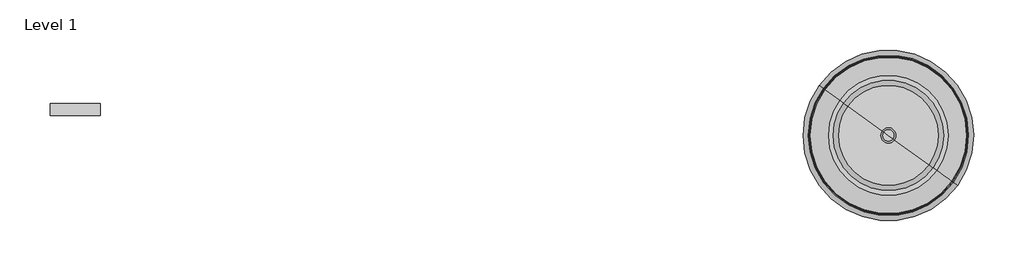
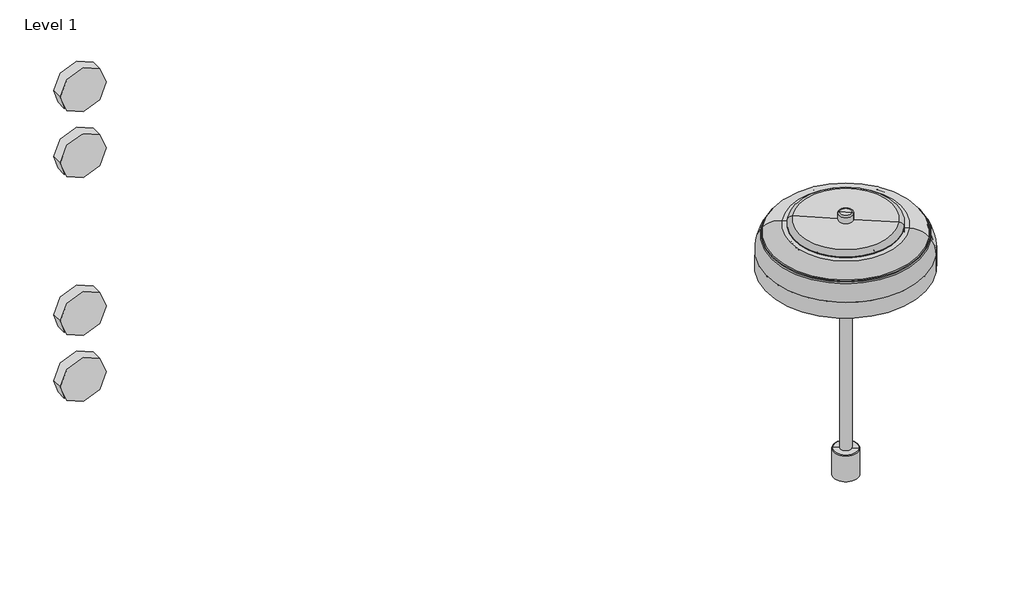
# One storey: 4 proxies, 1 light fixture.
"""IFC4 building model written with IfcOpenShell, lengths in millimetres."""

from ifc_helpers import new_model, si_unit, origin, place, context, project, spatial, transform, mapped, element, save
from components import materialmodel_materialmodel_d9ff14ed, light_fixture_892723d8

model = new_model("IFC4")

# Units and contexts
model_context = context("Model", 3, world=origin())
ifc_project = project(units=[si_unit("LENGTHUNIT", "METRE", prefix="MILLI")], contexts=[model_context])

# Site, building, storey
site = spatial("IfcSite", under=ifc_project)
building = spatial("IfcBuilding", under=site)
storey = spatial("IfcBuildingStorey", under=building, Name="Level 1", Elevation=0.0)

# Proxies
placement = place(None, origin())
materialmodel_materialmodel_shape = materialmodel_materialmodel_d9ff14ed(model_context)
element("IfcBuildingElementProxy", 1, Name="MaterialModel : MaterialModel", ObjectType="MaterialModel : MaterialModel", at=placement, inside=storey, context=model_context, shape_type="MappedRepresentation", body=[
    mapped(materialmodel_materialmodel_shape, transform((-14181.8938273, 5257.5863071, 552.2099026), x_axis=(1.0, 0.0, 0.0), y_axis=(0.0, 1.0, 0.0), z_axis=(0.0, 0.0, 1.0))),
])
element("IfcBuildingElementProxy", 2, Name="MaterialModel : MaterialModel", ObjectType="MaterialModel : MaterialModel", at=placement, inside=storey, context=model_context, shape_type="MappedRepresentation", body=[
    mapped(materialmodel_materialmodel_shape, transform((-14181.8938273, 5257.5863071, 477.2099026), x_axis=(1.0, 0.0, 0.0), y_axis=(0.0, 1.0, 0.0), z_axis=(0.0, 0.0, 1.0))),
])
element("IfcBuildingElementProxy", 3, Name="MaterialModel : MaterialModel", ObjectType="MaterialModel : MaterialModel", at=placement, inside=storey, context=model_context, shape_type="MappedRepresentation", body=[
    mapped(materialmodel_materialmodel_shape, transform((-14181.8938273, 5257.5863071, 807.2099026), x_axis=(1.0, 0.0, 0.0), y_axis=(0.0, 1.0, 0.0), z_axis=(0.0, 0.0, 1.0))),
])
element("IfcBuildingElementProxy", 4, Name="MaterialModel : MaterialModel", ObjectType="MaterialModel : MaterialModel", at=placement, inside=storey, context=model_context, shape_type="MappedRepresentation", body=[
    mapped(materialmodel_materialmodel_shape, transform((-14181.8938273, 5257.5863071, 732.2099026), x_axis=(1.0, 0.0, 0.0), y_axis=(0.0, 1.0, 0.0), z_axis=(0.0, 0.0, 1.0))),
])

# Light fixture
light_fixture_shape = light_fixture_892723d8(model_context)
element("IfcLightFixture", 5, ObjectType="Nuura - Blossi - Table In-Set Small : Nuura - Blossi - Table In-Set Small", at=placement, inside=storey, context=model_context, shape_type="MappedRepresentation", body=[
    mapped(light_fixture_shape, transform((-13372.5207912, 5226.0069548, 173.2082233), x_axis=(0.8098828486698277, -0.586591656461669, 0.0), y_axis=(0.586591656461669, 0.8098828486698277, 0.0), z_axis=(0.0, 0.0, 1.0))),
])

save(model, "model.ifc")
